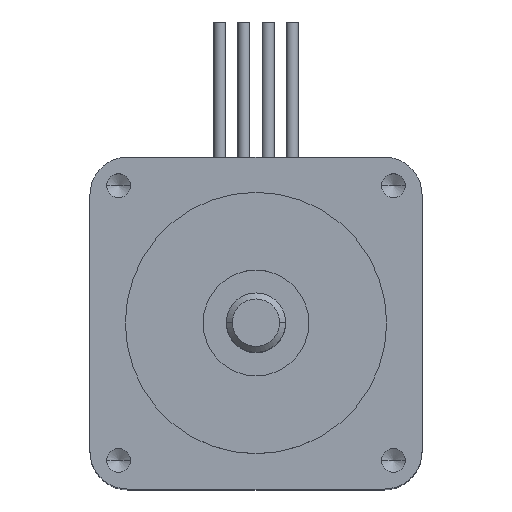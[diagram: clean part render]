
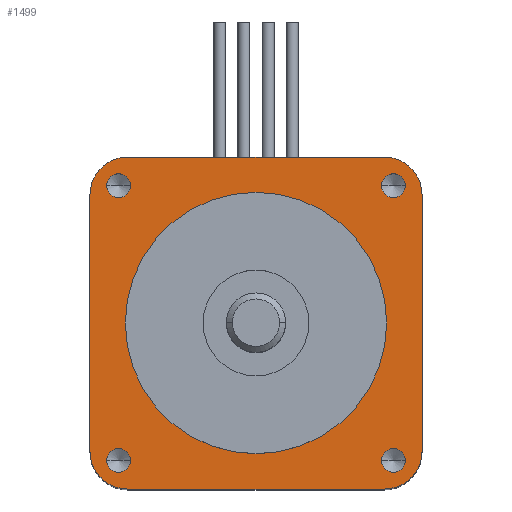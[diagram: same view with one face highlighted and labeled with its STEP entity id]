
A CAD part, top view. The second image highlights one B-rep face of the part: STEP entity #1499.
In plain terms, the highlighted planar face has unit normal (0, 0, 1).
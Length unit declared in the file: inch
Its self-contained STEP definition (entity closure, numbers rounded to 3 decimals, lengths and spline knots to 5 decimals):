
#97=CARTESIAN_POINT('',(-0.433,0.,1.75));
#98=VERTEX_POINT('',#97);
#107=CARTESIAN_POINT('',(0.433,0.,1.75));
#108=VERTEX_POINT('',#107);
#109=CARTESIAN_POINT('',(0.0,0.0,1.75));
#110=DIRECTION('',(0.0,0.0,-1.0));
#111=DIRECTION('',(-1.0,0.0,0.0));
#112=AXIS2_PLACEMENT_3D('',#109,#110,#111);
#113=CIRCLE('',#112,0.433);
#114=EDGE_CURVE('',#108,#98,#113,.T.);
#452=CARTESIAN_POINT('',(0.4945,0.455,1.75));
#453=VERTEX_POINT('',#452);
#469=CARTESIAN_POINT('',(0.4155,0.455,1.75));
#470=VERTEX_POINT('',#469);
#477=CARTESIAN_POINT('',(0.455,0.455,1.75));
#478=DIRECTION('',(0.0,0.0,-1.0));
#479=DIRECTION('',(1.0,0.0,0.0));
#480=AXIS2_PLACEMENT_3D('',#477,#478,#479);
#481=CIRCLE('',#480,0.0395);
#482=EDGE_CURVE('',#453,#470,#481,.T.);
#565=CARTESIAN_POINT('',(-0.4155,-0.455,1.75));
#566=VERTEX_POINT('',#565);
#582=CARTESIAN_POINT('',(-0.4945,-0.455,1.75));
#583=VERTEX_POINT('',#582);
#590=CARTESIAN_POINT('',(-0.455,-0.455,1.75));
#591=DIRECTION('',(0.0,0.0,-1.0));
#592=DIRECTION('',(1.0,0.0,0.0));
#593=AXIS2_PLACEMENT_3D('',#590,#591,#592);
#594=CIRCLE('',#593,0.0395);
#595=EDGE_CURVE('',#566,#583,#594,.T.);
#678=CARTESIAN_POINT('',(-0.4155,0.455,1.75));
#679=VERTEX_POINT('',#678);
#695=CARTESIAN_POINT('',(-0.4945,0.455,1.75));
#696=VERTEX_POINT('',#695);
#703=CARTESIAN_POINT('',(-0.455,0.455,1.75));
#704=DIRECTION('',(0.0,0.0,-1.0));
#705=DIRECTION('',(1.0,0.0,0.0));
#706=AXIS2_PLACEMENT_3D('',#703,#704,#705);
#707=CIRCLE('',#706,0.0395);
#708=EDGE_CURVE('',#679,#696,#707,.T.);
#791=CARTESIAN_POINT('',(0.4945,-0.455,1.75));
#792=VERTEX_POINT('',#791);
#808=CARTESIAN_POINT('',(0.4155,-0.455,1.75));
#809=VERTEX_POINT('',#808);
#816=CARTESIAN_POINT('',(0.455,-0.455,1.75));
#817=DIRECTION('',(0.0,0.0,-1.0));
#818=DIRECTION('',(1.0,0.0,0.0));
#819=AXIS2_PLACEMENT_3D('',#816,#817,#818);
#820=CIRCLE('',#819,0.0395);
#821=EDGE_CURVE('',#792,#809,#820,.T.);
#935=CARTESIAN_POINT('',(0.455,-0.455,1.75));
#936=DIRECTION('',(0.0,0.0,-1.0));
#937=DIRECTION('',(1.0,0.0,0.0));
#938=AXIS2_PLACEMENT_3D('',#935,#936,#937);
#939=CIRCLE('',#938,0.0395);
#940=EDGE_CURVE('',#809,#792,#939,.T.);
#1006=CARTESIAN_POINT('',(-0.455,0.455,1.75));
#1007=DIRECTION('',(0.0,0.0,-1.0));
#1008=DIRECTION('',(1.0,0.0,0.0));
#1009=AXIS2_PLACEMENT_3D('',#1006,#1007,#1008);
#1010=CIRCLE('',#1009,0.0395);
#1011=EDGE_CURVE('',#696,#679,#1010,.T.);
#1077=CARTESIAN_POINT('',(-0.455,-0.455,1.75));
#1078=DIRECTION('',(0.0,0.0,-1.0));
#1079=DIRECTION('',(1.0,0.0,0.0));
#1080=AXIS2_PLACEMENT_3D('',#1077,#1078,#1079);
#1081=CIRCLE('',#1080,0.0395);
#1082=EDGE_CURVE('',#583,#566,#1081,.T.);
#1148=CARTESIAN_POINT('',(0.455,0.455,1.75));
#1149=DIRECTION('',(0.0,0.0,-1.0));
#1150=DIRECTION('',(1.0,0.0,0.0));
#1151=AXIS2_PLACEMENT_3D('',#1148,#1149,#1150);
#1152=CIRCLE('',#1151,0.0395);
#1153=EDGE_CURVE('',#470,#453,#1152,.T.);
#1380=CARTESIAN_POINT('',(0.0,0.0,1.75));
#1381=DIRECTION('',(0.0,0.0,-1.0));
#1382=DIRECTION('',(-1.0,0.0,0.0));
#1383=AXIS2_PLACEMENT_3D('',#1380,#1381,#1382);
#1384=CIRCLE('',#1383,0.433);
#1385=EDGE_CURVE('',#98,#108,#1384,.T.);
#1404=CARTESIAN_POINT('',(0.0,0.0,1.75));
#1405=DIRECTION('',(0.0,0.0,1.0));
#1406=DIRECTION('',(1.0,0.0,0.0));
#1407=AXIS2_PLACEMENT_3D('',#1404,#1405,#1406);
#1408=PLANE('',#1407);
#1409=CARTESIAN_POINT('',(-0.425,0.55,1.75));
#1410=VERTEX_POINT('',#1409);
#1411=CARTESIAN_POINT('',(-0.55,0.425,1.75));
#1412=VERTEX_POINT('',#1411);
#1413=CARTESIAN_POINT('',(-0.425,0.425,1.75));
#1414=DIRECTION('',(0.0,0.0,1.0));
#1415=DIRECTION('',(0.0,1.0,0.0));
#1416=AXIS2_PLACEMENT_3D('',#1413,#1414,#1415);
#1417=CIRCLE('',#1416,0.125);
#1418=EDGE_CURVE('',#1410,#1412,#1417,.T.);
#1419=ORIENTED_EDGE('',*,*,#1418,.T.);
#1420=CARTESIAN_POINT('',(-0.55,-0.425,1.75));
#1421=VERTEX_POINT('',#1420);
#1422=CARTESIAN_POINT('',(-0.55,0.425,1.75));
#1423=DIRECTION('',(0.0,-1.0,0.0));
#1424=VECTOR('',#1423,0.85);
#1425=LINE('',#1422,#1424);
#1426=EDGE_CURVE('',#1412,#1421,#1425,.T.);
#1427=ORIENTED_EDGE('',*,*,#1426,.T.);
#1428=CARTESIAN_POINT('',(-0.425,-0.55,1.75));
#1429=VERTEX_POINT('',#1428);
#1430=CARTESIAN_POINT('',(-0.425,-0.425,1.75));
#1431=DIRECTION('',(0.0,0.0,1.0));
#1432=DIRECTION('',(-1.0,0.0,0.0));
#1433=AXIS2_PLACEMENT_3D('',#1430,#1431,#1432);
#1434=CIRCLE('',#1433,0.125);
#1435=EDGE_CURVE('',#1421,#1429,#1434,.T.);
#1436=ORIENTED_EDGE('',*,*,#1435,.T.);
#1437=CARTESIAN_POINT('',(0.425,-0.55,1.75));
#1438=VERTEX_POINT('',#1437);
#1439=CARTESIAN_POINT('',(-0.425,-0.55,1.75));
#1440=DIRECTION('',(1.0,0.0,0.0));
#1441=VECTOR('',#1440,0.85);
#1442=LINE('',#1439,#1441);
#1443=EDGE_CURVE('',#1429,#1438,#1442,.T.);
#1444=ORIENTED_EDGE('',*,*,#1443,.T.);
#1445=CARTESIAN_POINT('',(0.55,-0.425,1.75));
#1446=VERTEX_POINT('',#1445);
#1447=CARTESIAN_POINT('',(0.425,-0.425,1.75));
#1448=DIRECTION('',(0.0,0.0,1.0));
#1449=DIRECTION('',(0.0,-1.0,0.0));
#1450=AXIS2_PLACEMENT_3D('',#1447,#1448,#1449);
#1451=CIRCLE('',#1450,0.125);
#1452=EDGE_CURVE('',#1438,#1446,#1451,.T.);
#1453=ORIENTED_EDGE('',*,*,#1452,.T.);
#1454=CARTESIAN_POINT('',(0.55,0.425,1.75));
#1455=VERTEX_POINT('',#1454);
#1456=CARTESIAN_POINT('',(0.55,-0.425,1.75));
#1457=DIRECTION('',(0.0,1.0,0.0));
#1458=VECTOR('',#1457,0.85);
#1459=LINE('',#1456,#1458);
#1460=EDGE_CURVE('',#1446,#1455,#1459,.T.);
#1461=ORIENTED_EDGE('',*,*,#1460,.T.);
#1462=CARTESIAN_POINT('',(0.425,0.55,1.75));
#1463=VERTEX_POINT('',#1462);
#1464=CARTESIAN_POINT('',(0.425,0.425,1.75));
#1465=DIRECTION('',(0.0,0.0,1.0));
#1466=DIRECTION('',(1.0,0.0,0.0));
#1467=AXIS2_PLACEMENT_3D('',#1464,#1465,#1466);
#1468=CIRCLE('',#1467,0.125);
#1469=EDGE_CURVE('',#1455,#1463,#1468,.T.);
#1470=ORIENTED_EDGE('',*,*,#1469,.T.);
#1471=CARTESIAN_POINT('',(0.425,0.55,1.75));
#1472=DIRECTION('',(-1.0,0.0,0.0));
#1473=VECTOR('',#1472,0.85);
#1474=LINE('',#1471,#1473);
#1475=EDGE_CURVE('',#1463,#1410,#1474,.T.);
#1476=ORIENTED_EDGE('',*,*,#1475,.T.);
#1477=EDGE_LOOP('',(#1419,#1427,#1436,#1444,#1453,#1461,#1470,#1476));
#1478=FACE_OUTER_BOUND('',#1477,.T.);
#1479=ORIENTED_EDGE('',*,*,#821,.T.);
#1480=ORIENTED_EDGE('',*,*,#940,.T.);
#1481=EDGE_LOOP('',(#1479,#1480));
#1482=FACE_BOUND('',#1481,.T.);
#1483=ORIENTED_EDGE('',*,*,#708,.T.);
#1484=ORIENTED_EDGE('',*,*,#1011,.T.);
#1485=EDGE_LOOP('',(#1483,#1484));
#1486=FACE_BOUND('',#1485,.T.);
#1487=ORIENTED_EDGE('',*,*,#595,.T.);
#1488=ORIENTED_EDGE('',*,*,#1082,.T.);
#1489=EDGE_LOOP('',(#1487,#1488));
#1490=FACE_BOUND('',#1489,.T.);
#1491=ORIENTED_EDGE('',*,*,#482,.T.);
#1492=ORIENTED_EDGE('',*,*,#1153,.T.);
#1493=EDGE_LOOP('',(#1491,#1492));
#1494=FACE_BOUND('',#1493,.T.);
#1495=ORIENTED_EDGE('',*,*,#114,.T.);
#1496=ORIENTED_EDGE('',*,*,#1385,.T.);
#1497=EDGE_LOOP('',(#1495,#1496));
#1498=FACE_BOUND('',#1497,.T.);
#1499=ADVANCED_FACE('',(#1478,#1482,#1486,#1490,#1494,#1498),#1408,.T.);
